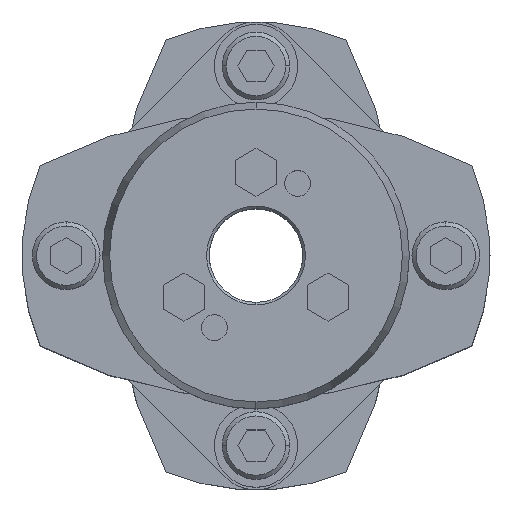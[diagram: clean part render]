
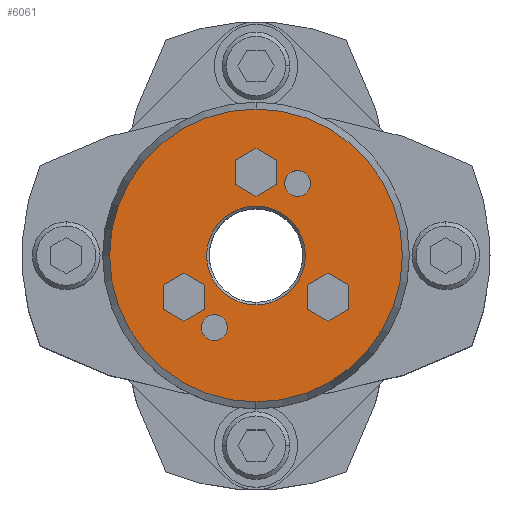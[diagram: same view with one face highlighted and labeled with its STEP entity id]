
A CAD part, top view. The second image highlights one B-rep face of the part: STEP entity #6061.
In plain terms, the highlighted planar face has unit normal (0, 0, 1).
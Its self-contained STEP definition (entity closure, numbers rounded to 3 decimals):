
#1677=CARTESIAN_POINT('',(0.,9.5,52.0));
#1678=VERTEX_POINT('',#1677);
#1694=CARTESIAN_POINT('',(0.,-9.5,52.0));
#1695=VERTEX_POINT('',#1694);
#1702=CARTESIAN_POINT('',(0.,0.,52.0));
#1703=DIRECTION('',(0.0,0.0,1.0));
#1704=DIRECTION('',(0.0,1.0,0.0));
#1705=AXIS2_PLACEMENT_3D('',#1702,#1703,#1704);
#1706=CIRCLE('',#1705,9.5);
#1707=EDGE_CURVE('',#1695,#1678,#1706,.T.);
#1865=CARTESIAN_POINT('',(0.,-28.16,52.0));
#1866=VERTEX_POINT('',#1865);
#1873=CARTESIAN_POINT('',(0.,28.16,52.0));
#1874=VERTEX_POINT('',#1873);
#1875=CARTESIAN_POINT('',(0.,0.,52.0));
#1876=DIRECTION('',(0.0,0.0,-1.0));
#1877=DIRECTION('',(0.0,-1.0,0.0));
#1878=AXIS2_PLACEMENT_3D('',#1875,#1876,#1877);
#1879=CIRCLE('',#1878,28.16);
#1880=EDGE_CURVE('',#1866,#1874,#1879,.T.);
#2123=CARTESIAN_POINT('',(8.,16.356,52.0));
#2124=VERTEX_POINT('',#2123);
#2140=CARTESIAN_POINT('',(8.,11.356,52.0));
#2141=VERTEX_POINT('',#2140);
#2148=CARTESIAN_POINT('',(8.,13.856,52.0));
#2149=DIRECTION('',(0.0,0.0,-1.0));
#2150=DIRECTION('',(0.0,1.0,0.0));
#2151=AXIS2_PLACEMENT_3D('',#2148,#2149,#2150);
#2152=CIRCLE('',#2151,2.5);
#2153=EDGE_CURVE('',#2124,#2141,#2152,.T.);
#2165=CARTESIAN_POINT('',(-8.,-11.356,52.0));
#2166=VERTEX_POINT('',#2165);
#2182=CARTESIAN_POINT('',(-8.,-16.356,52.0));
#2183=VERTEX_POINT('',#2182);
#2190=CARTESIAN_POINT('',(-8.,-13.856,52.0));
#2191=DIRECTION('',(0.0,0.0,-1.0));
#2192=DIRECTION('',(0.0,1.0,0.0));
#2193=AXIS2_PLACEMENT_3D('',#2190,#2191,#2192);
#2194=CIRCLE('',#2193,2.5);
#2195=EDGE_CURVE('',#2166,#2183,#2194,.T.);
#4577=CARTESIAN_POINT('',(13.856,-3.381,52.0));
#4578=VERTEX_POINT('',#4577);
#4585=CARTESIAN_POINT('',(9.856,-5.691,52.0));
#4586=VERTEX_POINT('',#4585);
#4587=CARTESIAN_POINT('',(9.856,-5.691,52.0));
#4588=DIRECTION('',(0.866,0.5,0.0));
#4589=VECTOR('',#4588,4.619);
#4590=LINE('',#4587,#4589);
#4591=EDGE_CURVE('',#4586,#4578,#4590,.T.);
#4615=CARTESIAN_POINT('',(17.856,-5.691,52.0));
#4616=VERTEX_POINT('',#4615);
#4623=CARTESIAN_POINT('',(13.856,-3.381,52.0));
#4624=DIRECTION('',(0.866,-0.5,0.0));
#4625=VECTOR('',#4624,4.619);
#4626=LINE('',#4623,#4625);
#4627=EDGE_CURVE('',#4578,#4616,#4626,.T.);
#4646=CARTESIAN_POINT('',(17.856,-10.309,52.0));
#4647=VERTEX_POINT('',#4646);
#4654=CARTESIAN_POINT('',(17.856,-5.691,52.0));
#4655=DIRECTION('',(0.0,-1.0,0.0));
#4656=VECTOR('',#4655,4.619);
#4657=LINE('',#4654,#4656);
#4658=EDGE_CURVE('',#4616,#4647,#4657,.T.);
#4677=CARTESIAN_POINT('',(13.856,-12.619,52.0));
#4678=VERTEX_POINT('',#4677);
#4685=CARTESIAN_POINT('',(17.856,-10.309,52.0));
#4686=DIRECTION('',(-0.866,-0.5,0.0));
#4687=VECTOR('',#4686,4.619);
#4688=LINE('',#4685,#4687);
#4689=EDGE_CURVE('',#4647,#4678,#4688,.T.);
#4708=CARTESIAN_POINT('',(9.856,-10.309,52.0));
#4709=VERTEX_POINT('',#4708);
#4716=CARTESIAN_POINT('',(13.856,-12.619,52.0));
#4717=DIRECTION('',(-0.866,0.5,0.0));
#4718=VECTOR('',#4717,4.619);
#4719=LINE('',#4716,#4718);
#4720=EDGE_CURVE('',#4678,#4709,#4719,.T.);
#4738=CARTESIAN_POINT('',(9.856,-10.309,52.0));
#4739=DIRECTION('',(0.0,1.0,0.0));
#4740=VECTOR('',#4739,4.619);
#4741=LINE('',#4738,#4740);
#4742=EDGE_CURVE('',#4709,#4586,#4741,.T.);
#4777=CARTESIAN_POINT('',(0.,20.619,52.0));
#4778=VERTEX_POINT('',#4777);
#4785=CARTESIAN_POINT('',(-4.,18.309,52.0));
#4786=VERTEX_POINT('',#4785);
#4787=CARTESIAN_POINT('',(-4.,18.309,52.0));
#4788=DIRECTION('',(0.866,0.5,0.0));
#4789=VECTOR('',#4788,4.619);
#4790=LINE('',#4787,#4789);
#4791=EDGE_CURVE('',#4786,#4778,#4790,.T.);
#4815=CARTESIAN_POINT('',(4.,18.309,52.0));
#4816=VERTEX_POINT('',#4815);
#4823=CARTESIAN_POINT('',(0.,20.619,52.0));
#4824=DIRECTION('',(0.866,-0.5,0.0));
#4825=VECTOR('',#4824,4.619);
#4826=LINE('',#4823,#4825);
#4827=EDGE_CURVE('',#4778,#4816,#4826,.T.);
#4846=CARTESIAN_POINT('',(4.,13.691,52.0));
#4847=VERTEX_POINT('',#4846);
#4854=CARTESIAN_POINT('',(4.,18.309,52.0));
#4855=DIRECTION('',(0.0,-1.0,0.0));
#4856=VECTOR('',#4855,4.619);
#4857=LINE('',#4854,#4856);
#4858=EDGE_CURVE('',#4816,#4847,#4857,.T.);
#4877=CARTESIAN_POINT('',(0.,11.381,52.0));
#4878=VERTEX_POINT('',#4877);
#4885=CARTESIAN_POINT('',(4.,13.691,52.0));
#4886=DIRECTION('',(-0.866,-0.5,0.0));
#4887=VECTOR('',#4886,4.619);
#4888=LINE('',#4885,#4887);
#4889=EDGE_CURVE('',#4847,#4878,#4888,.T.);
#4908=CARTESIAN_POINT('',(-4.,13.691,52.0));
#4909=VERTEX_POINT('',#4908);
#4916=CARTESIAN_POINT('',(0.,11.381,52.0));
#4917=DIRECTION('',(-0.866,0.5,0.0));
#4918=VECTOR('',#4917,4.619);
#4919=LINE('',#4916,#4918);
#4920=EDGE_CURVE('',#4878,#4909,#4919,.T.);
#4938=CARTESIAN_POINT('',(-4.,13.691,52.0));
#4939=DIRECTION('',(0.0,1.0,0.0));
#4940=VECTOR('',#4939,4.619);
#4941=LINE('',#4938,#4940);
#4942=EDGE_CURVE('',#4909,#4786,#4941,.T.);
#4977=CARTESIAN_POINT('',(-13.856,-3.381,52.0));
#4978=VERTEX_POINT('',#4977);
#4985=CARTESIAN_POINT('',(-17.856,-5.691,52.0));
#4986=VERTEX_POINT('',#4985);
#4987=CARTESIAN_POINT('',(-17.856,-5.691,52.0));
#4988=DIRECTION('',(0.866,0.5,0.0));
#4989=VECTOR('',#4988,4.619);
#4990=LINE('',#4987,#4989);
#4991=EDGE_CURVE('',#4986,#4978,#4990,.T.);
#5015=CARTESIAN_POINT('',(-9.856,-5.691,52.0));
#5016=VERTEX_POINT('',#5015);
#5023=CARTESIAN_POINT('',(-13.856,-3.381,52.0));
#5024=DIRECTION('',(0.866,-0.5,0.0));
#5025=VECTOR('',#5024,4.619);
#5026=LINE('',#5023,#5025);
#5027=EDGE_CURVE('',#4978,#5016,#5026,.T.);
#5046=CARTESIAN_POINT('',(-9.856,-10.309,52.0));
#5047=VERTEX_POINT('',#5046);
#5054=CARTESIAN_POINT('',(-9.856,-5.691,52.0));
#5055=DIRECTION('',(0.0,-1.0,0.0));
#5056=VECTOR('',#5055,4.619);
#5057=LINE('',#5054,#5056);
#5058=EDGE_CURVE('',#5016,#5047,#5057,.T.);
#5077=CARTESIAN_POINT('',(-13.856,-12.619,52.0));
#5078=VERTEX_POINT('',#5077);
#5085=CARTESIAN_POINT('',(-9.856,-10.309,52.0));
#5086=DIRECTION('',(-0.866,-0.5,0.0));
#5087=VECTOR('',#5086,4.619);
#5088=LINE('',#5085,#5087);
#5089=EDGE_CURVE('',#5047,#5078,#5088,.T.);
#5108=CARTESIAN_POINT('',(-17.856,-10.309,52.0));
#5109=VERTEX_POINT('',#5108);
#5116=CARTESIAN_POINT('',(-13.856,-12.619,52.0));
#5117=DIRECTION('',(-0.866,0.5,0.0));
#5118=VECTOR('',#5117,4.619);
#5119=LINE('',#5116,#5118);
#5120=EDGE_CURVE('',#5078,#5109,#5119,.T.);
#5138=CARTESIAN_POINT('',(-17.856,-10.309,52.0));
#5139=DIRECTION('',(0.0,1.0,0.0));
#5140=VECTOR('',#5139,4.619);
#5141=LINE('',#5138,#5140);
#5142=EDGE_CURVE('',#5109,#4986,#5141,.T.);
#5168=CARTESIAN_POINT('',(-8.,-13.856,52.0));
#5169=DIRECTION('',(0.0,0.0,-1.0));
#5170=DIRECTION('',(0.0,1.0,0.0));
#5171=AXIS2_PLACEMENT_3D('',#5168,#5169,#5170);
#5172=CIRCLE('',#5171,2.5);
#5173=EDGE_CURVE('',#2183,#2166,#5172,.T.);
#5202=CARTESIAN_POINT('',(8.,13.856,52.0));
#5203=DIRECTION('',(0.0,0.0,-1.0));
#5204=DIRECTION('',(0.0,1.0,0.0));
#5205=AXIS2_PLACEMENT_3D('',#5202,#5203,#5204);
#5206=CIRCLE('',#5205,2.5);
#5207=EDGE_CURVE('',#2141,#2124,#5206,.T.);
#6000=CARTESIAN_POINT('',(0.,0.,52.0));
#6001=DIRECTION('',(0.0,0.0,-1.0));
#6002=DIRECTION('',(0.0,-1.0,0.0));
#6003=AXIS2_PLACEMENT_3D('',#6000,#6001,#6002);
#6004=CIRCLE('',#6003,28.16);
#6005=EDGE_CURVE('',#1874,#1866,#6004,.T.);
#6010=CARTESIAN_POINT('',(0.,2.682,52.0));
#6011=DIRECTION('',(0.0,0.0,1.0));
#6012=DIRECTION('',(0.0,1.0,0.0));
#6013=AXIS2_PLACEMENT_3D('',#6010,#6011,#6012);
#6014=PLANE('',#6013);
#6015=ORIENTED_EDGE('',*,*,#6005,.F.);
#6016=ORIENTED_EDGE('',*,*,#1880,.F.);
#6017=EDGE_LOOP('',(#6015,#6016));
#6018=FACE_OUTER_BOUND('',#6017,.T.);
#6019=ORIENTED_EDGE('',*,*,#4591,.T.);
#6020=ORIENTED_EDGE('',*,*,#4627,.T.);
#6021=ORIENTED_EDGE('',*,*,#4658,.T.);
#6022=ORIENTED_EDGE('',*,*,#4689,.T.);
#6023=ORIENTED_EDGE('',*,*,#4720,.T.);
#6024=ORIENTED_EDGE('',*,*,#4742,.T.);
#6025=EDGE_LOOP('',(#6019,#6020,#6021,#6022,#6023,#6024));
#6026=FACE_BOUND('',#6025,.T.);
#6027=ORIENTED_EDGE('',*,*,#4791,.T.);
#6028=ORIENTED_EDGE('',*,*,#4827,.T.);
#6029=ORIENTED_EDGE('',*,*,#4858,.T.);
#6030=ORIENTED_EDGE('',*,*,#4889,.T.);
#6031=ORIENTED_EDGE('',*,*,#4920,.T.);
#6032=ORIENTED_EDGE('',*,*,#4942,.T.);
#6033=EDGE_LOOP('',(#6027,#6028,#6029,#6030,#6031,#6032));
#6034=FACE_BOUND('',#6033,.T.);
#6035=ORIENTED_EDGE('',*,*,#4991,.T.);
#6036=ORIENTED_EDGE('',*,*,#5027,.T.);
#6037=ORIENTED_EDGE('',*,*,#5058,.T.);
#6038=ORIENTED_EDGE('',*,*,#5089,.T.);
#6039=ORIENTED_EDGE('',*,*,#5120,.T.);
#6040=ORIENTED_EDGE('',*,*,#5142,.T.);
#6041=EDGE_LOOP('',(#6035,#6036,#6037,#6038,#6039,#6040));
#6042=FACE_BOUND('',#6041,.T.);
#6043=ORIENTED_EDGE('',*,*,#2195,.T.);
#6044=ORIENTED_EDGE('',*,*,#5173,.T.);
#6045=EDGE_LOOP('',(#6043,#6044));
#6046=FACE_BOUND('',#6045,.T.);
#6047=ORIENTED_EDGE('',*,*,#2153,.T.);
#6048=ORIENTED_EDGE('',*,*,#5207,.T.);
#6049=EDGE_LOOP('',(#6047,#6048));
#6050=FACE_BOUND('',#6049,.T.);
#6051=ORIENTED_EDGE('',*,*,#1707,.F.);
#6052=CARTESIAN_POINT('',(0.,0.,52.0));
#6053=DIRECTION('',(0.0,0.0,1.0));
#6054=DIRECTION('',(0.0,1.0,0.0));
#6055=AXIS2_PLACEMENT_3D('',#6052,#6053,#6054);
#6056=CIRCLE('',#6055,9.5);
#6057=EDGE_CURVE('',#1678,#1695,#6056,.T.);
#6058=ORIENTED_EDGE('',*,*,#6057,.F.);
#6059=EDGE_LOOP('',(#6051,#6058));
#6060=FACE_BOUND('',#6059,.T.);
#6061=ADVANCED_FACE('',(#6018,#6026,#6034,#6042,#6046,#6050,#6060),#6014,.T.);
